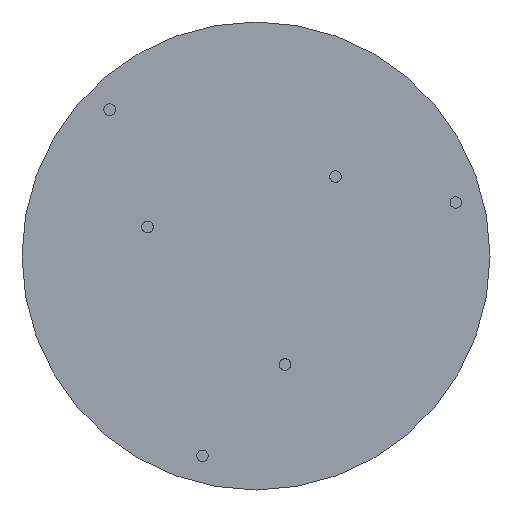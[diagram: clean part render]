
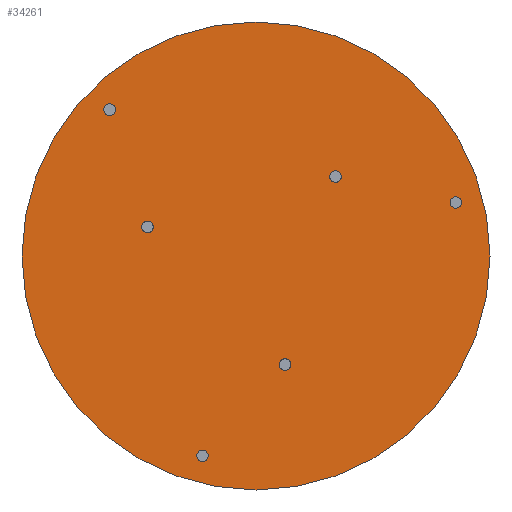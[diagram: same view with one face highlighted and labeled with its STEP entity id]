
A CAD part, front view. The second image highlights one B-rep face of the part: STEP entity #34261.
In plain terms, the highlighted planar face has unit normal (0, -1, 0).
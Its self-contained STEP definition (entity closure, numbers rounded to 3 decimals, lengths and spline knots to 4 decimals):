
#55 = ORIENTED_EDGE ( 'NONE', *, *, #9661, .T. ) ;
#749 = CARTESIAN_POINT ( 'NONE',  ( 0., -1.0732, 0. ) ) ;
#1166 = AXIS2_PLACEMENT_3D ( 'NONE', #44370, #3334, #10233 ) ;
#1274 = VERTEX_POINT ( 'NONE', #18873 ) ;
#1672 = ORIENTED_EDGE ( 'NONE', *, *, #27911, .T. ) ;
#2523 = ORIENTED_EDGE ( 'NONE', *, *, #10646, .T. ) ;
#2804 = VERTEX_POINT ( 'NONE', #40649 ) ;
#3033 = FACE_BOUND ( 'NONE', #13949, .T. ) ;
#3065 = DIRECTION ( 'NONE',  ( 0., 1., 0. ) ) ;
#3302 = DIRECTION ( 'NONE',  ( 0., -1., 0. ) ) ;
#3334 = DIRECTION ( 'NONE',  ( 0., 1., 0. ) ) ;
#4113 = DIRECTION ( 'NONE',  ( 0., 0., 1. ) ) ;
#4426 = DIRECTION ( 'NONE',  ( 0., 0., -1. ) ) ;
#4469 = CARTESIAN_POINT ( 'NONE',  ( -0.8131, -1.0732, 0.8132 ) ) ;
#4557 = FACE_BOUND ( 'NONE', #26602, .T. ) ;
#5370 = FACE_BOUND ( 'NONE', #6600, .T. ) ;
#5934 = AXIS2_PLACEMENT_3D ( 'NONE', #15748, #26332, #35457 ) ;
#6174 = EDGE_LOOP ( 'NONE', ( #45496, #23230 ) ) ;
#6459 = DIRECTION ( 'NONE',  ( 0., 1., 0. ) ) ;
#6554 = ORIENTED_EDGE ( 'NONE', *, *, #26449, .F. ) ;
#6600 = EDGE_LOOP ( 'NONE', ( #19221, #26565 ) ) ;
#6787 = CARTESIAN_POINT ( 'NONE',  ( 1.1108, -1.0732, 0.2976 ) ) ;
#7103 = EDGE_LOOP ( 'NONE', ( #41255, #55 ) ) ;
#7246 = CARTESIAN_POINT ( 'NONE',  ( 1.1108, -1.0732, 0.2976 ) ) ;
#9047 = VERTEX_POINT ( 'NONE', #14910 ) ;
#9119 = AXIS2_PLACEMENT_3D ( 'NONE', #41342, #6459, #4113 ) ;
#9160 = CARTESIAN_POINT ( 'NONE',  ( 0.4417, -1.0732, 0.4096 ) ) ;
#9167 = EDGE_CURVE ( 'NONE', #9047, #26807, #34565, .T. ) ;
#9416 = CIRCLE ( 'NONE', #5934, 0.0321 ) ;
#9661 = EDGE_CURVE ( 'NONE', #36717, #41097, #10504, .T. ) ;
#9929 = ORIENTED_EDGE ( 'NONE', *, *, #40062, .F. ) ;
#10233 = DIRECTION ( 'NONE',  ( 0., 0., 1. ) ) ;
#10315 = DIRECTION ( 'NONE',  ( 0., 1., 0. ) ) ;
#10504 = CIRCLE ( 'NONE', #25283, 1.3004 ) ;
#10590 = DIRECTION ( 'NONE',  ( 0., 1., 0. ) ) ;
#10644 = DIRECTION ( 'NONE',  ( 0., -1., 0. ) ) ;
#10646 = EDGE_CURVE ( 'NONE', #21396, #1274, #39581, .T. ) ;
#10679 = PLANE ( 'NONE',  #20591 ) ;
#11103 = CARTESIAN_POINT ( 'NONE',  ( 0.1617, -1.0732, -0.6354 ) ) ;
#12007 = AXIS2_PLACEMENT_3D ( 'NONE', #6787, #22724, #28715 ) ;
#12095 = DIRECTION ( 'NONE',  ( 0., -1., 0. ) ) ;
#12808 = AXIS2_PLACEMENT_3D ( 'NONE', #20467, #10644, #37887 ) ;
#12845 = CARTESIAN_POINT ( 'NONE',  ( 0.1617, -1.0732, -0.6033 ) ) ;
#13281 = DIRECTION ( 'NONE',  ( 0., -1., 0. ) ) ;
#13703 = VERTEX_POINT ( 'NONE', #35057 ) ;
#13949 = EDGE_LOOP ( 'NONE', ( #1672, #23570 ) ) ;
#13960 = DIRECTION ( 'NONE',  ( 0., 0., -1. ) ) ;
#14321 = CARTESIAN_POINT ( 'NONE',  ( 0., -1.0732, 0. ) ) ;
#14596 = CIRCLE ( 'NONE', #16633, 0.0321 ) ;
#14787 = CARTESIAN_POINT ( 'NONE',  ( -0.8131, -1.0732, 0.7811 ) ) ;
#14910 = CARTESIAN_POINT ( 'NONE',  ( 1.1108, -1.0732, 0.3297 ) ) ;
#15257 = FACE_BOUND ( 'NONE', #16234, .T. ) ;
#15586 = EDGE_LOOP ( 'NONE', ( #39039, #40326 ) ) ;
#15748 = CARTESIAN_POINT ( 'NONE',  ( -0.2977, -1.0732, -1.1108 ) ) ;
#15966 = DIRECTION ( 'NONE',  ( 0., 1., 0. ) ) ;
#16054 = CARTESIAN_POINT ( 'NONE',  ( 0.4417, -1.0732, 0.4417 ) ) ;
#16234 = EDGE_LOOP ( 'NONE', ( #6554, #9929 ) ) ;
#16633 = AXIS2_PLACEMENT_3D ( 'NONE', #46714, #10315, #35325 ) ;
#16848 = CIRCLE ( 'NONE', #44711, 0.0321 ) ;
#17583 = CIRCLE ( 'NONE', #9119, 0.0321 ) ;
#17856 = AXIS2_PLACEMENT_3D ( 'NONE', #7246, #13281, #37525 ) ;
#18354 = EDGE_CURVE ( 'NONE', #32818, #21462, #19808, .T. ) ;
#18731 = DIRECTION ( 'NONE',  ( 0., 0., -1. ) ) ;
#18873 = CARTESIAN_POINT ( 'NONE',  ( 0.1617, -1.0732, -0.5712 ) ) ;
#19028 = CIRCLE ( 'NONE', #12007, 0.0321 ) ;
#19221 = ORIENTED_EDGE ( 'NONE', *, *, #31883, .F. ) ;
#19808 = CIRCLE ( 'NONE', #33685, 0.0321 ) ;
#20467 = CARTESIAN_POINT ( 'NONE',  ( 0., -1.0732, 0. ) ) ;
#20591 = AXIS2_PLACEMENT_3D ( 'NONE', #749, #34899, #23597 ) ;
#20964 = DIRECTION ( 'NONE',  ( 0., -1., 0. ) ) ;
#21346 = FACE_BOUND ( 'NONE', #6174, .T. ) ;
#21396 = VERTEX_POINT ( 'NONE', #11103 ) ;
#21462 = VERTEX_POINT ( 'NONE', #40737 ) ;
#22176 = VERTEX_POINT ( 'NONE', #14787 ) ;
#22218 = CARTESIAN_POINT ( 'NONE',  ( 0., -1.0732, 1.3004 ) ) ;
#22321 = CARTESIAN_POINT ( 'NONE',  ( -0.6033, -1.0732, 0.1937 ) ) ;
#22724 = DIRECTION ( 'NONE',  ( 0., -1., 0. ) ) ;
#23230 = ORIENTED_EDGE ( 'NONE', *, *, #18354, .T. ) ;
#23570 = ORIENTED_EDGE ( 'NONE', *, *, #39078, .T. ) ;
#23597 = DIRECTION ( 'NONE',  ( 0., 0., -1. ) ) ;
#25283 = AXIS2_PLACEMENT_3D ( 'NONE', #14321, #43146, #4426 ) ;
#26332 = DIRECTION ( 'NONE',  ( 0., -1., 0. ) ) ;
#26449 = EDGE_CURVE ( 'NONE', #22176, #13703, #40766, .T. ) ;
#26457 = EDGE_CURVE ( 'NONE', #1274, #21396, #41592, .T. ) ;
#26565 = ORIENTED_EDGE ( 'NONE', *, *, #33727, .F. ) ;
#26602 = EDGE_LOOP ( 'NONE', ( #30355, #2523 ) ) ;
#26789 = AXIS2_PLACEMENT_3D ( 'NONE', #12845, #10590, #37085 ) ;
#26803 = CARTESIAN_POINT ( 'NONE',  ( 1.1108, -1.0732, 0.2655 ) ) ;
#26807 = VERTEX_POINT ( 'NONE', #26803 ) ;
#27911 = EDGE_CURVE ( 'NONE', #40073, #44101, #14596, .T. ) ;
#28090 = AXIS2_PLACEMENT_3D ( 'NONE', #34396, #3302, #13960 ) ;
#28145 = CIRCLE ( 'NONE', #12808, 1.3004 ) ;
#28715 = DIRECTION ( 'NONE',  ( 0., 0., -1. ) ) ;
#29543 = CARTESIAN_POINT ( 'NONE',  ( 0.4417, -1.0732, 0.4417 ) ) ;
#30355 = ORIENTED_EDGE ( 'NONE', *, *, #26457, .T. ) ;
#31104 = FACE_OUTER_BOUND ( 'NONE', #7103, .T. ) ;
#31883 = EDGE_CURVE ( 'NONE', #2804, #41898, #42334, .T. ) ;
#32818 = VERTEX_POINT ( 'NONE', #9160 ) ;
#33272 = DIRECTION ( 'NONE',  ( 0., 0., -1. ) ) ;
#33348 = CARTESIAN_POINT ( 'NONE',  ( -0.6033, -1.0732, 0.1296 ) ) ;
#33685 = AXIS2_PLACEMENT_3D ( 'NONE', #29543, #15966, #37901 ) ;
#33727 = EDGE_CURVE ( 'NONE', #41898, #2804, #9416, .T. ) ;
#33949 = EDGE_CURVE ( 'NONE', #41097, #36717, #28145, .T. ) ;
#34261 = ADVANCED_FACE ( 'NONE', ( #35700, #15257, #5370, #3033, #21346, #4557, #31104 ), #10679, .T. ) ;
#34396 = CARTESIAN_POINT ( 'NONE',  ( -0.8131, -1.0732, 0.8132 ) ) ;
#34565 = CIRCLE ( 'NONE', #17856, 0.0321 ) ;
#34899 = DIRECTION ( 'NONE',  ( 0., -1., 0. ) ) ;
#34965 = DIRECTION ( 'NONE',  ( 0., 0., 1. ) ) ;
#35057 = CARTESIAN_POINT ( 'NONE',  ( -0.8131, -1.0732, 0.8453 ) ) ;
#35325 = DIRECTION ( 'NONE',  ( 0., 0., 1. ) ) ;
#35457 = DIRECTION ( 'NONE',  ( 0., 0., -1. ) ) ;
#35700 = FACE_BOUND ( 'NONE', #15586, .T. ) ;
#36540 = CIRCLE ( 'NONE', #28090, 0.0321 ) ;
#36717 = VERTEX_POINT ( 'NONE', #42280 ) ;
#36778 = CARTESIAN_POINT ( 'NONE',  ( -0.2977, -1.0732, -1.0787 ) ) ;
#37085 = DIRECTION ( 'NONE',  ( 0., 0., 1. ) ) ;
#37525 = DIRECTION ( 'NONE',  ( 0., 0., -1. ) ) ;
#37887 = DIRECTION ( 'NONE',  ( 0., 0., -1. ) ) ;
#37901 = DIRECTION ( 'NONE',  ( 0., 0., 1. ) ) ;
#38630 = EDGE_CURVE ( 'NONE', #26807, #9047, #19028, .T. ) ;
#39039 = ORIENTED_EDGE ( 'NONE', *, *, #38630, .F. ) ;
#39078 = EDGE_CURVE ( 'NONE', #44101, #40073, #17583, .T. ) ;
#39581 = CIRCLE ( 'NONE', #1166, 0.0321 ) ;
#40062 = EDGE_CURVE ( 'NONE', #13703, #22176, #36540, .T. ) ;
#40073 = VERTEX_POINT ( 'NONE', #22321 ) ;
#40326 = ORIENTED_EDGE ( 'NONE', *, *, #9167, .F. ) ;
#40649 = CARTESIAN_POINT ( 'NONE',  ( -0.2977, -1.0732, -1.1429 ) ) ;
#40737 = CARTESIAN_POINT ( 'NONE',  ( 0.4417, -1.0732, 0.4737 ) ) ;
#40766 = CIRCLE ( 'NONE', #44277, 0.0321 ) ;
#41097 = VERTEX_POINT ( 'NONE', #22218 ) ;
#41255 = ORIENTED_EDGE ( 'NONE', *, *, #33949, .T. ) ;
#41342 = CARTESIAN_POINT ( 'NONE',  ( -0.6033, -1.0732, 0.1617 ) ) ;
#41429 = CARTESIAN_POINT ( 'NONE',  ( -0.2977, -1.0732, -1.1108 ) ) ;
#41592 = CIRCLE ( 'NONE', #26789, 0.0321 ) ;
#41737 = AXIS2_PLACEMENT_3D ( 'NONE', #41429, #20964, #18731 ) ;
#41898 = VERTEX_POINT ( 'NONE', #36778 ) ;
#42280 = CARTESIAN_POINT ( 'NONE',  ( 0., -1.0732, -1.3004 ) ) ;
#42334 = CIRCLE ( 'NONE', #41737, 0.0321 ) ;
#43146 = DIRECTION ( 'NONE',  ( 0., -1., 0. ) ) ;
#44101 = VERTEX_POINT ( 'NONE', #33348 ) ;
#44200 = EDGE_CURVE ( 'NONE', #21462, #32818, #16848, .T. ) ;
#44277 = AXIS2_PLACEMENT_3D ( 'NONE', #4469, #12095, #33272 ) ;
#44370 = CARTESIAN_POINT ( 'NONE',  ( 0.1617, -1.0732, -0.6033 ) ) ;
#44711 = AXIS2_PLACEMENT_3D ( 'NONE', #16054, #3065, #34965 ) ;
#45496 = ORIENTED_EDGE ( 'NONE', *, *, #44200, .T. ) ;
#46714 = CARTESIAN_POINT ( 'NONE',  ( -0.6033, -1.0732, 0.1617 ) ) ;
